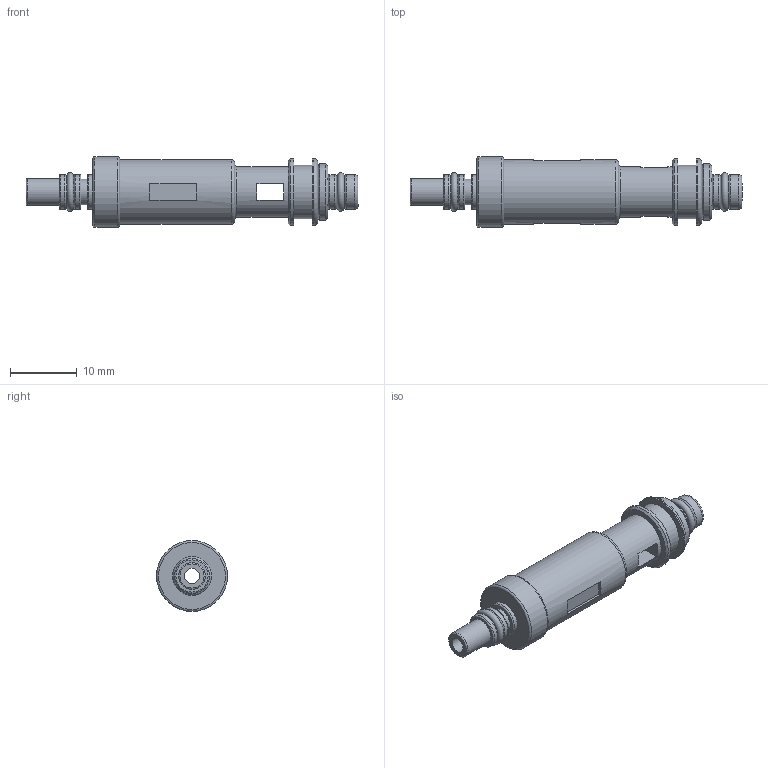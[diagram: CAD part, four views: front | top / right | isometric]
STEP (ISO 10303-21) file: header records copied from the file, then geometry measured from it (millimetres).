
FILE_DESCRIPTION( ( 'STEP AP203' ), '1' );
FILE_NAME( 'D:/撲啗紫賊-02/撲啗紫賊-02/project-06/Vacuum Cartridge-3D/VC202.stp', '2007-05-25T06:04:58', ( ' ' ), ( ' ' ), 'XStep 1.0', ' ', ' ' );
FILE_SCHEMA( ( 'CONFIG_CONTROL_DESIGN) ( )' ) );
Length unit declared in the file: metre
Products named in the file (1): 1
Bounding box: 49.6 x 10.6 x 10.6 mm (x, y, z)
Volume: 2268.9 mm3; surface area: 1987.9 mm2
Topology: 1 solids, 1 shells, 79 faces, 147 edges, 91 vertices
Faces by surface type: plane 35, cylinder 22, torus 19, cone 3
Full cylindrical faces by diameter (mm): 2.3 x2, 3.6 x1, 3.8 x5, 4 x1, 4.754 x1, 5.2 x5, 7.6 x1, 8 x1, 8.4 x1, 9.6 x1, 10 x2, 10.6 x1
Entity records: 1794 total; most frequent: DIRECTION 336, CARTESIAN_POINT 272, ORIENTED_EDGE 204, AXIS2_PLACEMENT_3D 154, EDGE_LOOP 150, FACE_OUTER_BOUND 120, EDGE_CURVE 102, VERTEX_POINT 90
